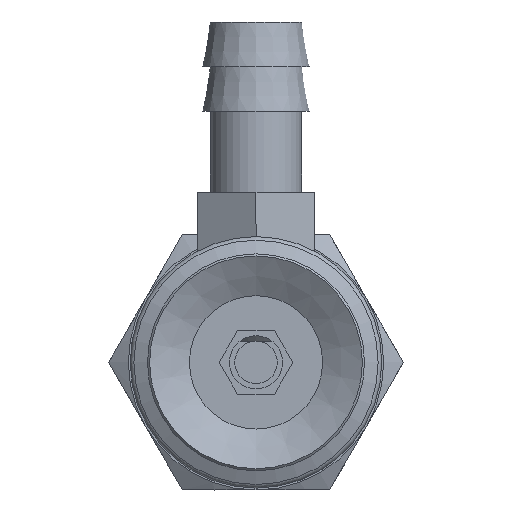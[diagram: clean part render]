
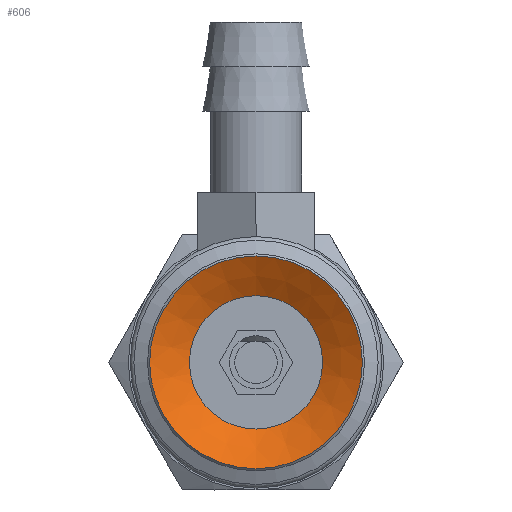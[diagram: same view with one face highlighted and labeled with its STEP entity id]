
A CAD part, front view. The second image highlights one B-rep face of the part: STEP entity #606.
In plain terms, the highlighted conical face has half-angle 60 degrees and reference radius 3.133 mm.
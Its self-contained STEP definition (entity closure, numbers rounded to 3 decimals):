
#606=ADVANCED_FACE('',(#873,#874),#875,.F.);
#873=FACE_BOUND('',#1209,.T.);
#874=FACE_OUTER_BOUND('',#1210,.T.);
#875=CONICAL_SURFACE('',#1211,3.133,1.047);
#1209=EDGE_LOOP('',(#1934));
#1210=EDGE_LOOP('',(#1935));
#1211=AXIS2_PLACEMENT_3D('',#1936,#1937,#1938);
#1934=ORIENTED_EDGE('',*,*,#2315,.F.);
#1935=ORIENTED_EDGE('',*,*,#2316,.T.);
#1936=CARTESIAN_POINT('',(0.0,7.659,0.));
#1937=DIRECTION('',(-0.0,-1.0,0.));
#1938=DIRECTION('',(0.0,0.,-1.0));
#2315=EDGE_CURVE('',#2650,#2650,#2651,.T.);
#2316=EDGE_CURVE('',#2652,#2652,#2653,.T.);
#2650=VERTEX_POINT('',#3372);
#2651=CIRCLE('',#3373,3.133);
#2652=VERTEX_POINT('',#3374);
#2653=CIRCLE('',#3375,5.0);
#3372=CARTESIAN_POINT('',(0.0,7.659,-3.133));
#3373=AXIS2_PLACEMENT_3D('',#3733,#3734,#3735);
#3374=CARTESIAN_POINT('',(0.0,6.581,-5.0));
#3375=AXIS2_PLACEMENT_3D('',#3736,#3737,#3738);
#3733=CARTESIAN_POINT('',(0.0,7.659,0.));
#3734=DIRECTION('',(0.0,-1.0,0.));
#3735=DIRECTION('',(0.0,0.,-1.0));
#3736=CARTESIAN_POINT('',(0.0,6.581,0.0));
#3737=DIRECTION('',(0.0,-1.0,0.));
#3738=DIRECTION('',(0.0,0.,-1.0));
